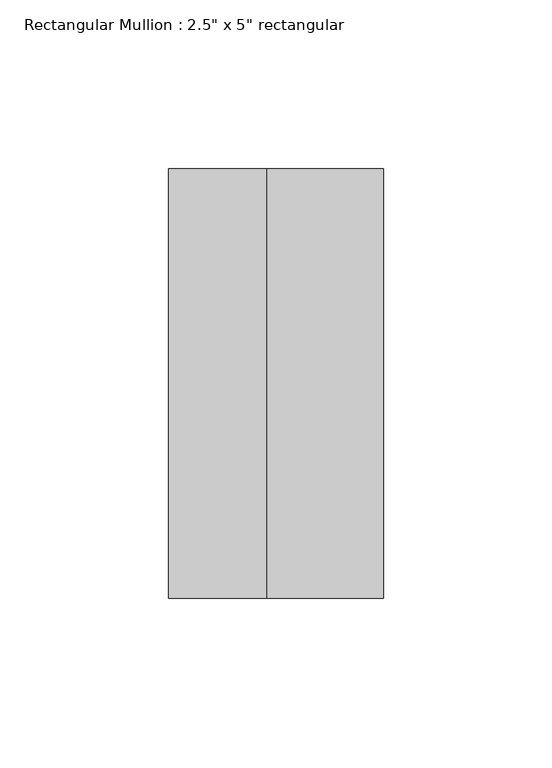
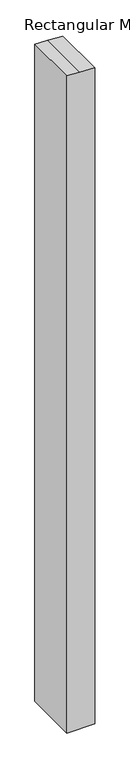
"""IFC4 building model written with IfcOpenShell, lengths in millimetres: member geometry."""

from ifc_helpers import new_model, si_unit, frame, origin, place, context, project, spatial, polyline, outline, extrude, source, transform, mapped, element, save


def member_542ec671(model_context):
    return source(origin(), model_context, "Body", "SweptSolid", [
        extrude(outline(polyline([(-64.8775557, 31.75), (-63.4449853, -2.6426951), (-62.232569, -31.75), (-1651.5778232, -31.75), (-1651.5778232, 31.75), (-64.8775557, 31.75)])), frame((0.0, -63.5, 0.0), z_axis=(0.0, 1.0, 0.0), x_axis=(0.0, 0.0, 1.0)), (0.0, 0.0, 1.0), 127.0),
    ])


if __name__ == "__main__":
    model = new_model("IFC4")
    model_context = context("Model", 3, world=origin())
    ifc_project = project(units=[si_unit("LENGTHUNIT", "METRE", prefix="MILLI")], contexts=[model_context])
    site = spatial("IfcSite", under=ifc_project)
    building = spatial("IfcBuilding", under=site)
    placement = place(None, origin())
    member_shape = member_542ec671(model_context)
    element("IfcMember", 1, ObjectType="Rectangular Mullion : 2.5\" x 5\" rectangular", at=placement, inside=building, context=model_context, shape_type="MappedRepresentation", body=[
        mapped(member_shape, transform((0.0, 0.0, 0.0), x_axis=(1.0, 0.0, 0.0), y_axis=(0.0, 1.0, 0.0), z_axis=(0.0, 0.0, 1.0))),
    ])
    save(model, "model.ifc")
